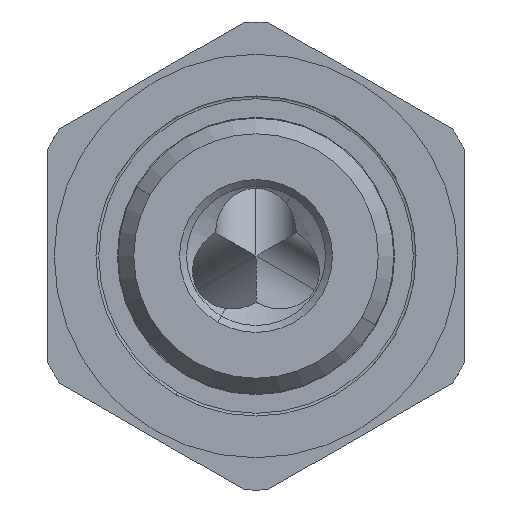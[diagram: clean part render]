
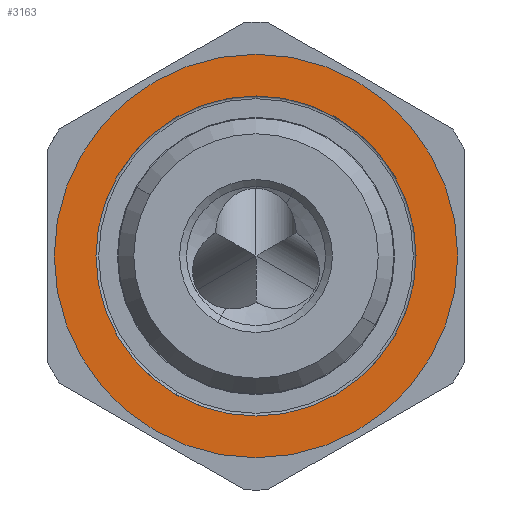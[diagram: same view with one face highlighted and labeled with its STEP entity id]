
A CAD part, front view. The second image highlights one B-rep face of the part: STEP entity #3163.
In plain terms, the highlighted planar face has unit normal (0, -1, 0) as drawn and (-1, 0, 0) by its records, which use the part's own axes.
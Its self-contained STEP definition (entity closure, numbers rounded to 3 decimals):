
#380=CARTESIAN_POINT('',(22.5,16.975,0.));
#381=VERTEX_POINT('',#380);
#390=CARTESIAN_POINT('',(22.5,-12.075,0.));
#391=VERTEX_POINT('',#390);
#392=CARTESIAN_POINT('',(22.5,2.45,0.0));
#393=DIRECTION('',(-1.0,0.0,0.0));
#394=DIRECTION('',(0.0,1.0,0.0));
#395=AXIS2_PLACEMENT_3D('',#392,#393,#394);
#396=CIRCLE('',#395,14.525);
#397=EDGE_CURVE('',#391,#381,#396,.T.);
#554=CARTESIAN_POINT('',(22.5,13.975,0.));
#555=VERTEX_POINT('',#554);
#564=CARTESIAN_POINT('',(22.5,-9.075,0.));
#565=VERTEX_POINT('',#564);
#566=CARTESIAN_POINT('',(22.5,2.45,0.0));
#567=DIRECTION('',(1.0,0.0,0.0));
#568=DIRECTION('',(0.0,1.0,0.0));
#569=AXIS2_PLACEMENT_3D('',#566,#567,#568);
#570=CIRCLE('',#569,11.525);
#571=EDGE_CURVE('',#565,#555,#570,.T.);
#2898=CARTESIAN_POINT('',(22.5,2.45,0.0));
#2899=DIRECTION('',(1.0,0.0,0.0));
#2900=DIRECTION('',(0.0,1.0,0.0));
#2901=AXIS2_PLACEMENT_3D('',#2898,#2899,#2900);
#2902=CIRCLE('',#2901,11.525);
#2903=EDGE_CURVE('',#555,#565,#2902,.T.);
#3009=CARTESIAN_POINT('',(22.5,2.45,0.0));
#3010=DIRECTION('',(-1.0,0.0,0.0));
#3011=DIRECTION('',(0.0,1.0,0.0));
#3012=AXIS2_PLACEMENT_3D('',#3009,#3010,#3011);
#3013=CIRCLE('',#3012,14.525);
#3014=EDGE_CURVE('',#381,#391,#3013,.T.);
#3150=CARTESIAN_POINT('',(22.5,2.45,0.));
#3151=DIRECTION('',(1.0,0.0,0.0));
#3152=DIRECTION('',(0.0,0.0,-1.0));
#3153=AXIS2_PLACEMENT_3D('',#3150,#3151,#3152);
#3154=PLANE('',#3153);
#3155=ORIENTED_EDGE('',*,*,#3014,.T.);
#3156=ORIENTED_EDGE('',*,*,#397,.T.);
#3157=EDGE_LOOP('',(#3155,#3156));
#3158=FACE_OUTER_BOUND('',#3157,.T.);
#3159=ORIENTED_EDGE('',*,*,#2903,.T.);
#3160=ORIENTED_EDGE('',*,*,#571,.T.);
#3161=EDGE_LOOP('',(#3159,#3160));
#3162=FACE_BOUND('',#3161,.T.);
#3163=ADVANCED_FACE('',(#3158,#3162),#3154,.F.);
